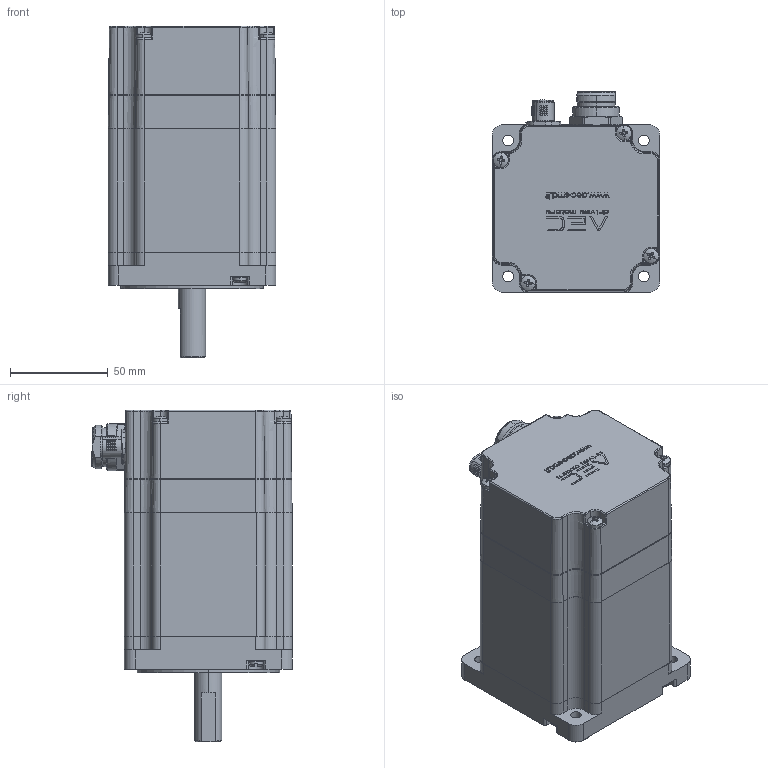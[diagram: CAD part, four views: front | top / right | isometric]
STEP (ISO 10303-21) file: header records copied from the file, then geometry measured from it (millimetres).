
FILE_DESCRIPTION (( 'STEP AP214' ), '1' );
FILE_NAME ('M86SH96-TO0512L05C.STEP', '2025-05-24T08:47:22', ( '' ), ( '' ), 'SwSTEP 2.0', 'SolidWorks 2019', '' );
FILE_SCHEMA (( 'AUTOMOTIVE_DESIGN' ));
Length unit declared in the file: millimetre
Products named in the file (1): M86SH96-TO0512L05C
Bounding box: 85.9 x 102.59 x 169.75 mm (x, y, z)
Volume: 522367 mm3; surface area: 178251.9 mm2
Topology: 31 solids, 31 shells, 2013 faces, 5167 edges, 3315 vertices
Faces by surface type: plane 943, cylinder 482, bspline 261, cone 195, torus 116, sphere 16
Entity records: 96116 total; most frequent: CARTESIAN_POINT 25473, ORIENTED_EDGE 10256, DIRECTION 9600, EDGE_CURVE 5128, AXIS2_PLACEMENT_3D 3424, VERTEX_POINT 3315, VECTOR 2752, LINE 2752
